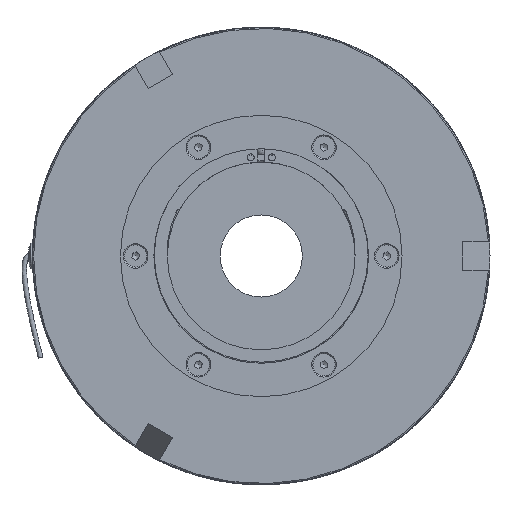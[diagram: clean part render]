
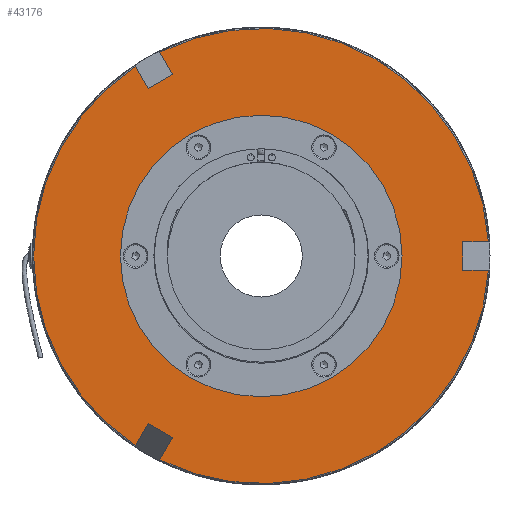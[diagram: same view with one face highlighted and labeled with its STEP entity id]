
A CAD part, left-side view. The second image highlights one B-rep face of the part: STEP entity #43176.
In plain terms, the highlighted planar face has unit normal (-1, 0, 0).
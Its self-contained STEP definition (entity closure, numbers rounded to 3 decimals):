
#3176=FACE_BOUND('',#8725,.T.);
#4002=CIRCLE('',#47268,60.);
#4144=CIRCLE('',#47497,97.);
#4145=CIRCLE('',#47498,97.);
#4146=CIRCLE('',#47499,97.);
#6403=FACE_OUTER_BOUND('',#8724,.T.);
#8724=EDGE_LOOP('',(#33157,#33158,#33159,#33160,#33161,#33162,#33163,#33164,
#33165,#33166,#33167,#33168));
#8725=EDGE_LOOP('',(#33169));
#11149=LINE('',#75397,#13457);
#11152=LINE('',#75414,#13460);
#11154=LINE('',#75420,#13462);
#11156=LINE('',#75436,#13464);
#11159=LINE('',#75453,#13467);
#11161=LINE('',#75459,#13469);
#11163=LINE('',#75477,#13471);
#11164=LINE('',#75479,#13472);
#11165=LINE('',#75481,#13473);
#13457=VECTOR('',#58364,10.);
#13460=VECTOR('',#58369,10.);
#13462=VECTOR('',#58375,10.);
#13464=VECTOR('',#58379,10.);
#13467=VECTOR('',#58384,10.);
#13469=VECTOR('',#58390,10.);
#13471=VECTOR('',#58398,10.);
#13472=VECTOR('',#58399,10.);
#13473=VECTOR('',#58400,10.);
#16639=VERTEX_POINT('',#72290);
#16895=VERTEX_POINT('',#75395);
#16896=VERTEX_POINT('',#75396);
#16899=VERTEX_POINT('',#75413);
#16901=VERTEX_POINT('',#75419);
#16903=VERTEX_POINT('',#75434);
#16904=VERTEX_POINT('',#75435);
#16907=VERTEX_POINT('',#75452);
#16909=VERTEX_POINT('',#75458);
#16911=VERTEX_POINT('',#75474);
#16912=VERTEX_POINT('',#75476);
#16913=VERTEX_POINT('',#75478);
#16914=VERTEX_POINT('',#75480);
#22396=EDGE_CURVE('',#16639,#16639,#4002,.T.);
#22728=EDGE_CURVE('',#16895,#16896,#11149,.T.);
#22732=EDGE_CURVE('',#16899,#16895,#11152,.T.);
#22735=EDGE_CURVE('',#16901,#16899,#11154,.T.);
#22738=EDGE_CURVE('',#16903,#16904,#11156,.T.);
#22742=EDGE_CURVE('',#16907,#16903,#11159,.T.);
#22745=EDGE_CURVE('',#16909,#16907,#11161,.T.);
#22748=EDGE_CURVE('',#16909,#16896,#4144,.T.);
#22749=EDGE_CURVE('',#16911,#16904,#4145,.T.);
#22750=EDGE_CURVE('',#16911,#16912,#11163,.T.);
#22751=EDGE_CURVE('',#16912,#16913,#11164,.T.);
#22752=EDGE_CURVE('',#16913,#16914,#11165,.T.);
#22753=EDGE_CURVE('',#16901,#16914,#4146,.T.);
#33157=ORIENTED_EDGE('',*,*,#22735,.T.);
#33158=ORIENTED_EDGE('',*,*,#22732,.T.);
#33159=ORIENTED_EDGE('',*,*,#22728,.T.);
#33160=ORIENTED_EDGE('',*,*,#22748,.F.);
#33161=ORIENTED_EDGE('',*,*,#22745,.T.);
#33162=ORIENTED_EDGE('',*,*,#22742,.T.);
#33163=ORIENTED_EDGE('',*,*,#22738,.T.);
#33164=ORIENTED_EDGE('',*,*,#22749,.F.);
#33165=ORIENTED_EDGE('',*,*,#22750,.T.);
#33166=ORIENTED_EDGE('',*,*,#22751,.T.);
#33167=ORIENTED_EDGE('',*,*,#22752,.T.);
#33168=ORIENTED_EDGE('',*,*,#22753,.F.);
#33169=ORIENTED_EDGE('',*,*,#22396,.T.);
#41124=PLANE('',#47496);
#43176=ADVANCED_FACE('',(#6403,#3176),#41124,.T.);
#47268=AXIS2_PLACEMENT_3D('',#72291,#57916,#57917);
#47496=AXIS2_PLACEMENT_3D('',#75472,#58392,#58393);
#47497=AXIS2_PLACEMENT_3D('',#75473,#58394,#58395);
#47498=AXIS2_PLACEMENT_3D('',#75475,#58396,#58397);
#47499=AXIS2_PLACEMENT_3D('',#75482,#58401,#58402);
#57916=DIRECTION('center_axis',(1.,0.,0.));
#57917=DIRECTION('ref_axis',(0.,1.,0.));
#58364=DIRECTION('',(0.,0.5,0.866));
#58369=DIRECTION('',(0.,0.866,-0.5));
#58375=DIRECTION('',(0.,-0.5,-0.866));
#58379=DIRECTION('',(0.,0.5,-0.866));
#58384=DIRECTION('',(0.,-0.866,-0.5));
#58390=DIRECTION('',(0.,-0.5,0.866));
#58392=DIRECTION('center_axis',(-1.,0.,0.));
#58393=DIRECTION('ref_axis',(0.,0.,
1.));
#58394=DIRECTION('center_axis',(1.,0.,0.));
#58395=DIRECTION('ref_axis',(0.,1.,0.));
#58396=DIRECTION('center_axis',(1.,0.,0.));
#58397=DIRECTION('ref_axis',(0.,1.,0.));
#58398=DIRECTION('',(0.,1.,0.));
#58399=DIRECTION('',(0.,0.,1.));
#58400=DIRECTION('',(0.,-1.,0.));
#58401=DIRECTION('center_axis',(1.,0.,0.));
#58402=DIRECTION('ref_axis',(0.,1.,0.));
#72290=CARTESIAN_POINT('',(-36.75,60.,0.));
#72291=CARTESIAN_POINT('Origin',(-36.75,0.,0.));
#75395=CARTESIAN_POINT('',(-36.75,48.143,71.386));
#75396=CARTESIAN_POINT('',(-36.75,53.603,80.844));
#75397=CARTESIAN_POINT('',(-36.75,38.493,54.671));
#75413=CARTESIAN_POINT('',(-36.75,37.751,77.386));
#75414=CARTESIAN_POINT('',(-36.75,72.384,57.39));
#75419=CARTESIAN_POINT('',(-36.75,43.211,86.844));
#75420=CARTESIAN_POINT('',(-36.75,28.1,60.671));
#75434=CARTESIAN_POINT('',(-36.75,37.751,-77.386));
#75435=CARTESIAN_POINT('',(-36.75,43.211,-86.844));
#75436=CARTESIAN_POINT('',(-36.75,28.1,-60.671));
#75452=CARTESIAN_POINT('',(-36.75,48.143,-71.386));
#75453=CARTESIAN_POINT('',(-36.75,72.384,-57.39));
#75458=CARTESIAN_POINT('',(-36.75,53.603,-80.844));
#75459=CARTESIAN_POINT('',(-36.75,38.493,-54.671));
#75472=CARTESIAN_POINT('Origin',(-36.75,78.5,0.));
#75473=CARTESIAN_POINT('Origin',(-36.75,0.,0.));
#75474=CARTESIAN_POINT('',(-36.75,-96.814,-6.));
#75475=CARTESIAN_POINT('Origin',(-36.75,0.,0.));
#75476=CARTESIAN_POINT('',(-36.75,-85.893,-6.));
#75477=CARTESIAN_POINT('',(-36.75,-7.718,-6.));
#75478=CARTESIAN_POINT('',(-36.75,-85.893,6.));
#75479=CARTESIAN_POINT('',(-36.75,-85.893,0.));
#75480=CARTESIAN_POINT('',(-36.75,-96.814,6.));
#75481=CARTESIAN_POINT('',(-36.75,-7.718,6.));
#75482=CARTESIAN_POINT('Origin',(-36.75,0.,0.));
